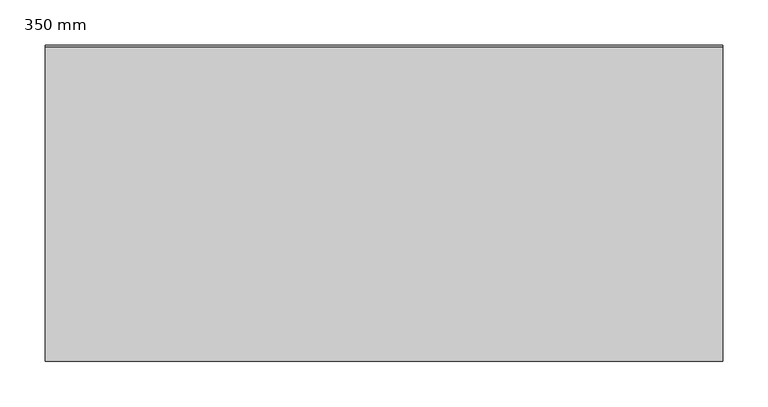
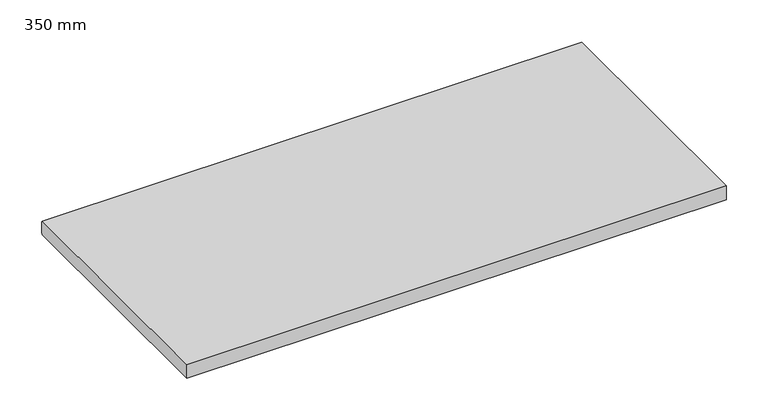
"""IFC4 building model written with IfcOpenShell, lengths in millimetres: proxy geometry, 400_35_NS_vensterbank : 350 mm."""

from ifc_helpers import new_model, si_unit, frame, origin, place, context, project, spatial, polyline, outline, extrude, source, transform, mapped, element, save


def proxy_350_mm_8b86544a(model_context):
    return source(origin(), model_context, "Body", "SweptSolid", [
        extrude(outline(polyline([(0.0, 0.0), (0.0, 20.0), (348.0, 20.0), (350.0, 18.0), (350.0, 2.0), (348.0, 0.0), (0.0, 0.0)])), frame((-375.0, 0.0, 0.0), z_axis=(1.0, 0.0, 0.0), x_axis=(0.0, 1.0, 0.0)), (0.0, 0.0, 1.0), 750.0),
    ])


if __name__ == "__main__":
    model = new_model("IFC4")
    model_context = context("Model", 3, world=origin())
    ifc_project = project(units=[si_unit("LENGTHUNIT", "METRE", prefix="MILLI")], contexts=[model_context])
    site = spatial("IfcSite", under=ifc_project)
    building = spatial("IfcBuilding", under=site)
    placement = place(None, origin())
    proxy_350_mm_shape = proxy_350_mm_8b86544a(model_context)
    element("IfcBuildingElementProxy", 1, Name="400_35_NS_vensterbank : 350 mm", ObjectType="400_35_NS_vensterbank : 350 mm", at=placement, inside=building, context=model_context, shape_type="MappedRepresentation", body=[
        mapped(proxy_350_mm_shape, transform((0.0, 0.0, 0.0), x_axis=(1.0, 0.0, 0.0), y_axis=(0.0, 1.0, 0.0), z_axis=(0.0, 0.0, 1.0))),
    ])
    save(model, "model.ifc")
